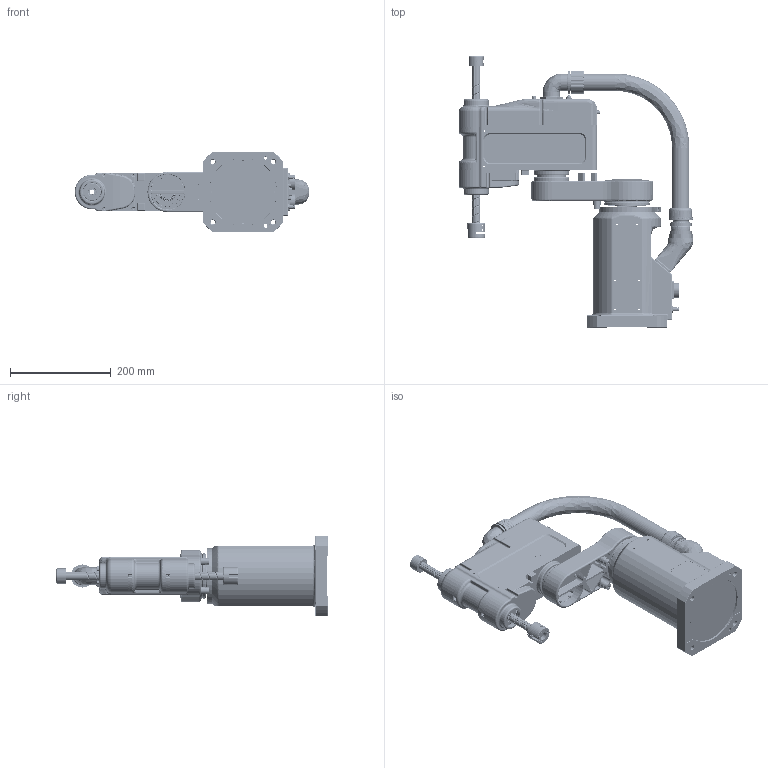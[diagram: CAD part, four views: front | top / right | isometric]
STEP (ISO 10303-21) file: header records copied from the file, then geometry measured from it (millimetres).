
FILE_DESCRIPTION (( 'STEP AP214' ), '1' );
FILE_NAME ('R4-0203 3D耀倰.STEP', '2023-06-09T00:27:28', ( 'iCura' ), ( 'ICOS' ), 'SwSTEP 2.0', 'SolidWorks 2018', '' );
FILE_SCHEMA (( 'AUTOMOTIVE_DESIGN' ));
Length unit declared in the file: millimetre
Products named in the file (7): R4-0203  3D耀倰; R4-0203-2-00-R1_1; R4-0203-4-00 ; R4-0203-1-00-R1_1; 软管接头_1; 疏恇奪 R4-0203_1; R4-0203-3-00-R1 J3粣
Assembly tree (6 placements, depth 2):
  R4-0203  3D耀倰
    R4-0203-1-00-R1_1
    R4-0203-2-00-R1_1
    R4-0203-3-00-R1 J3粣
    疏恇奪 R4-0203_1
    软管接头_1
    R4-0203-4-00 
Bounding box: 466.15 x 539.52 x 160 mm (x, y, z)
Volume: 153725.2 mm3; surface area: 748936 mm2
Topology: 2 solids, 231 shells, 2604 faces, 8758 edges, 6298 vertices
Faces by surface type: cylinder 1076, plane 942, bspline 284, cone 172, torus 90, sphere 40
Full cylindrical faces by diameter (mm): 1 x18, 2.5 x27, 3 x12, 3.2 x8, 3.3 x21, 3.4 x31, 3.5 x35, 4 x6, 4.2 x6, 4.5 x24, 5 x2, 5.5 x17, 5.8 x4, 5.891 x2, 6 x9, 7 x13, 8 x23, 9 x5, 10 x1, 11 x2, 12 x1, 13 x2, 14 x1, 15 x4, 16 x1, 22 x1, 26 x1, 26.69 x1, 27.4 x1, 29 x2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
Entity records: 165018 total; most frequent: CARTESIAN_POINT 75431, DIRECTION 14351, ORIENTED_EDGE 12981, EDGE_CURVE 7983, VERTEX_POINT 6102, AXIS2_PLACEMENT_3D 5602, EDGE_LOOP 3633, CIRCLE 3272
